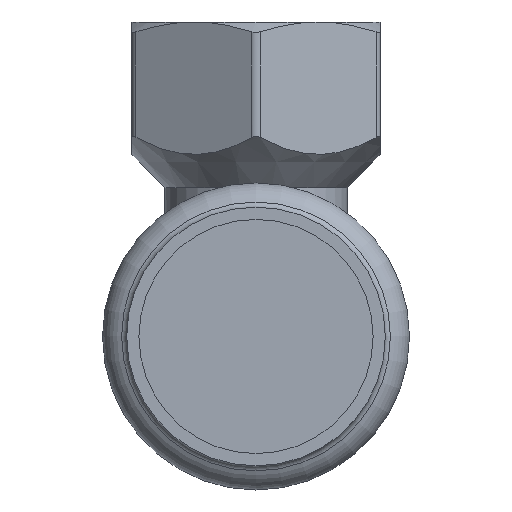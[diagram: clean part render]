
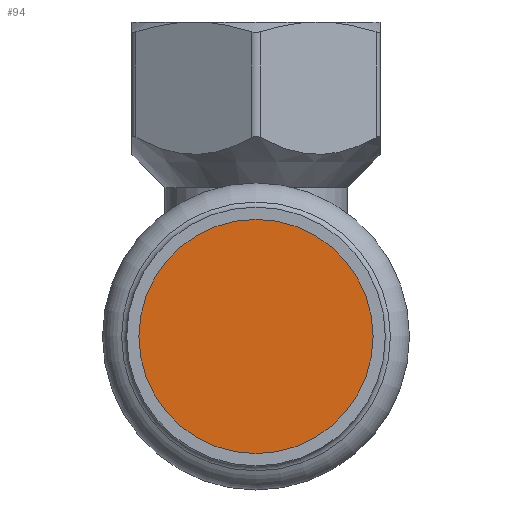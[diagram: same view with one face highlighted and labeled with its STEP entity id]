
A CAD part, front view. The second image highlights one B-rep face of the part: STEP entity #94.
In plain terms, the highlighted planar face has unit normal (0, -1, 0).
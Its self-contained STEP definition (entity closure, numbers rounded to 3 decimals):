
#94=ADVANCED_FACE('',(#429),#431,.T.);
#429=FACE_BOUND('',#430,.T.);
#430=EDGE_LOOP('',(#589));
#431=PLANE('',#432);
#432=AXIS2_PLACEMENT_3D('',#433,#434,#435);
#433=CARTESIAN_POINT('',(0.,-44.219,0.));
#434=DIRECTION('',(0.,-1.,0.));
#435=DIRECTION('',(0.,0.,-1.));
#589=ORIENTED_EDGE('',*,*,#663,.T.);
#663=EDGE_CURVE('',#791,#791,#792,.F.);
#791=VERTEX_POINT('',#2311);
#792=CIRCLE('',#2312,14.15);
#2311=CARTESIAN_POINT('',(0.,-44.219,14.15));
#2312=AXIS2_PLACEMENT_3D('',#2313,#2314,#2315);
#2313=CARTESIAN_POINT('',(0.,-44.219,0.));
#2314=DIRECTION('',(0.,1.,0.));
#2315=DIRECTION('',(0.,0.,1.));
